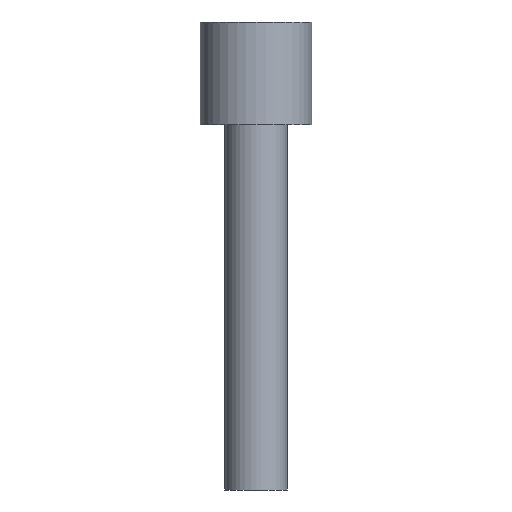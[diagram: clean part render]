
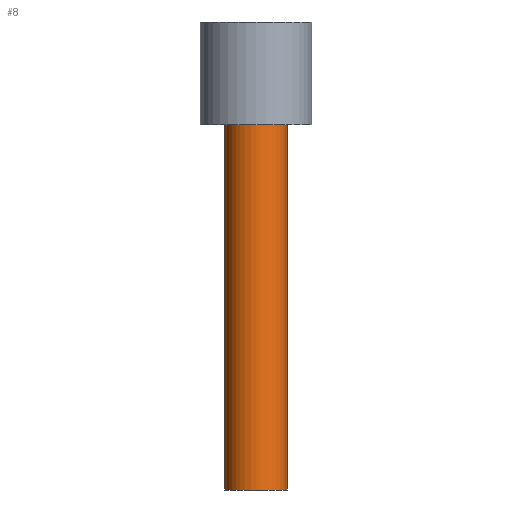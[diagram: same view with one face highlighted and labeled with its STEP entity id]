
A CAD part, front view. The second image highlights one B-rep face of the part: STEP entity #8.
In plain terms, the highlighted cylindrical face has radius 0.7 mm (diameter 1.4 mm), a partial arc.
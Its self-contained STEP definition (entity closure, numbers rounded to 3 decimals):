
#8 = ADVANCED_FACE ( 'NONE', ( #175 ), #2267, .T. ) ;
#125 = DIRECTION ( 'NONE',  ( 0., 0., 1. ) ) ;
#135 = DIRECTION ( 'NONE',  ( 0., 0., 1. ) ) ;
#136 = CARTESIAN_POINT ( 'NONE',  ( 0.7, 0., -10.5 ) ) ;
#175 = FACE_OUTER_BOUND ( 'NONE', #1159, .T. ) ;
#183 = CARTESIAN_POINT ( 'NONE',  ( -0.7, 0., -2.3 ) ) ;
#217 = VECTOR ( 'NONE', #1453, 1000. ) ;
#277 = LINE ( 'NONE', #1069, #217 ) ;
#293 = CIRCLE ( 'NONE', #1663, 0.7 ) ;
#444 = CARTESIAN_POINT ( 'NONE',  ( 0., 0., -10.5 ) ) ;
#456 = EDGE_CURVE ( 'NONE', #603, #2428, #1355, .T. ) ;
#477 = DIRECTION ( 'NONE',  ( 1., 0., 0. ) ) ;
#507 = AXIS2_PLACEMENT_3D ( 'NONE', #1085, #125, #890 ) ;
#571 = DIRECTION ( 'NONE',  ( 0., 0., 1. ) ) ;
#603 = VERTEX_POINT ( 'NONE', #183 ) ;
#629 = AXIS2_PLACEMENT_3D ( 'NONE', #1323, #571, #2455 ) ;
#735 = EDGE_CURVE ( 'NONE', #1720, #2095, #293, .T. ) ;
#879 = CARTESIAN_POINT ( 'NONE',  ( 0.7, 0., -0.404 ) ) ;
#890 = DIRECTION ( 'NONE',  ( 1., 0., 0. ) ) ;
#909 = LINE ( 'NONE', #879, #1855 ) ;
#1069 = CARTESIAN_POINT ( 'NONE',  ( -0.7, 0., -0.404 ) ) ;
#1085 = CARTESIAN_POINT ( 'NONE',  ( 0., 0., -2.3 ) ) ;
#1159 = EDGE_LOOP ( 'NONE', ( #1590, #1212, #1471, #2106 ) ) ;
#1212 = ORIENTED_EDGE ( 'NONE', *, *, #735, .T. ) ;
#1232 = EDGE_CURVE ( 'NONE', #2095, #2428, #909, .T. ) ;
#1323 = CARTESIAN_POINT ( 'NONE',  ( 0., 0., -0.404 ) ) ;
#1355 = CIRCLE ( 'NONE', #507, 0.7 ) ;
#1453 = DIRECTION ( 'NONE',  ( 0., 0., 1. ) ) ;
#1471 = ORIENTED_EDGE ( 'NONE', *, *, #1232, .T. ) ;
#1590 = ORIENTED_EDGE ( 'NONE', *, *, #1797, .F. ) ;
#1640 = CARTESIAN_POINT ( 'NONE',  ( -0.7, 0., -10.5 ) ) ;
#1663 = AXIS2_PLACEMENT_3D ( 'NONE', #444, #2186, #477 ) ;
#1720 = VERTEX_POINT ( 'NONE', #1640 ) ;
#1797 = EDGE_CURVE ( 'NONE', #1720, #603, #277, .T. ) ;
#1855 = VECTOR ( 'NONE', #135, 1000. ) ;
#2095 = VERTEX_POINT ( 'NONE', #136 ) ;
#2106 = ORIENTED_EDGE ( 'NONE', *, *, #456, .F. ) ;
#2186 = DIRECTION ( 'NONE',  ( 0., 0., 1. ) ) ;
#2214 = CARTESIAN_POINT ( 'NONE',  ( 0.7, 0., -2.3 ) ) ;
#2267 = CYLINDRICAL_SURFACE ( 'NONE', #629, 0.7 ) ;
#2428 = VERTEX_POINT ( 'NONE', #2214 ) ;
#2455 = DIRECTION ( 'NONE',  ( 1., 0., 0. ) ) ;
